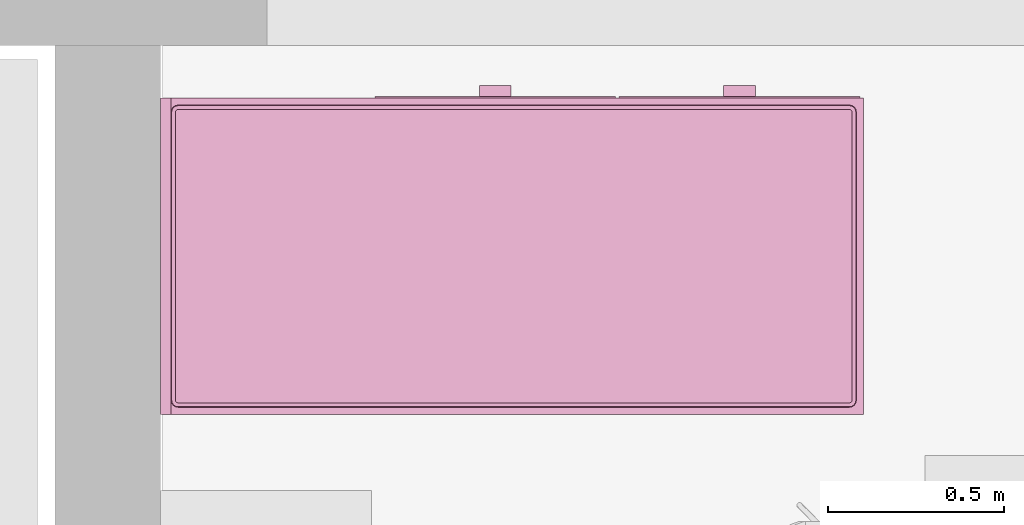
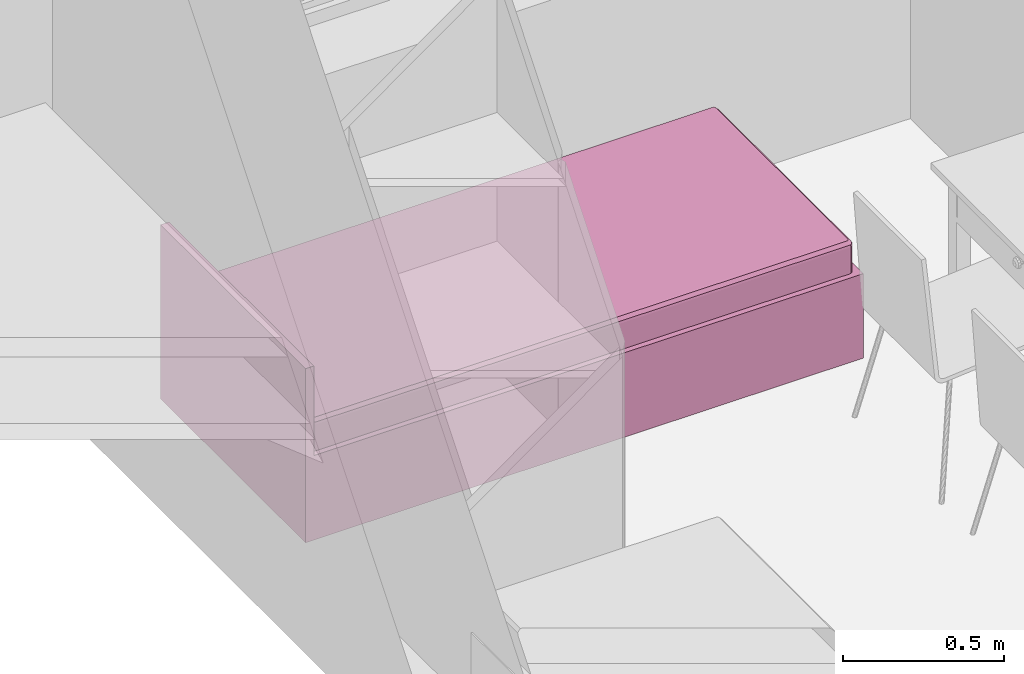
# One storey, part 129 of 165: 1 furnishing.
"""IFC2X3 building model written with IfcOpenShell, lengths in millimetres."""

from ifc_helpers import new_model, entity, si_unit, converted_unit, money_unit, direction, frame, origin_with_axes, place, context, subcontext, project, spatial, faceted_brep, source, transform, mapped, material, material_list, type_object, element, save


model = new_model("IFC2X3")

# Units and contexts
model_context = context("Model", 3, precision=1e-05, world=origin_with_axes(), true_north=direction((0.0, 1.0)))
body_context = subcontext(model_context, "Body", "Model", "MODEL_VIEW")
ifc_project = project(units=[si_unit("LENGTHUNIT", "METRE", prefix="MILLI"), si_unit("AREAUNIT", "SQUARE_METRE"), si_unit("VOLUMEUNIT", "CUBIC_METRE"), converted_unit("PLANEANGLEUNIT", "DEGREE", entity("IfcPlaneAngleMeasure", 0.0174532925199), si_unit("PLANEANGLEUNIT", "RADIAN"), dimensions=[0, 0, 0, 0, 0, 0, 0]), si_unit("SOLIDANGLEUNIT", "STERADIAN"), money_unit("USD"), converted_unit("TIMEUNIT", "Year", entity("IfcTimeMeasure", 31556926.0), si_unit("TIMEUNIT", "SECOND"), dimensions=[0, 0, 0, 0, 0, 0, 0]), si_unit("MASSUNIT", "GRAM"), si_unit("THERMODYNAMICTEMPERATUREUNIT", "DEGREE_CELSIUS"), si_unit("LUMINOUSINTENSITYUNIT", "LUMEN")], contexts=[model_context])

# Site, building, storey
site_placement = place(None, origin_with_axes())
site = spatial("IfcSite", under=ifc_project, at=site_placement, Name="Site", CompositionType="ELEMENT")
building_placement = place(site_placement, origin_with_axes())
building = spatial("IfcBuilding", under=site, at=building_placement, Name="Building", CompositionType="ELEMENT")
storey_placement = place(building_placement, frame((0.0, 0.0, 6300.0), z_axis=(0.0, 0.0, 1.0), x_axis=(1.0, 0.0, 0.0)))
storey = spatial("IfcBuildingStorey", under=building, at=storey_placement, Name="4KORRUS", CompositionType="ELEMENT", Elevation=6300.0)

# Furnishing
ifc_material = material(Name="Background")
ifc_material_list = material_list([ifc_material])
furnishing_element_type = type_object("IfcFurnishingElementType", Name="Bed 19")
shared_shape = source(origin_with_axes(), body_context, "Body", "Brep", [
    faceted_brep([(900.0, 1970.0, 0.0), (0.0, 1970.0, 0.0), (0.0, 2000.0, 0.0), (900.0, 2000.0, 0.0), (900.0, 1970.0, 660.0), (0.0, 1970.0, 660.0), (0.0, 2000.0, 660.0), (900.0, 2000.0, 660.0)], [[[0, 1, 2, 3]], [[1, 0, 4, 5]], [[2, 1, 5, 6]], [[3, 2, 6, 7]], [[0, 3, 7, 4]], [[5, 4, 7, 6]]]),
    faceted_brep([(900.0, 0.0, 0.0), (0.0, 0.0, 0.0), (0.0, 1970.0, 0.0), (900.0, 1970.0, 0.0), (900.0, 0.0, 320.0), (0.0, 0.0, 320.0), (0.0, 1970.0, 320.0), (900.0, 1970.0, 320.0)], [[[0, 1, 2, 3]], [[1, 0, 4, 5]], [[2, 1, 5, 6]], [[3, 2, 6, 7]], [[0, 3, 7, 4]], [[5, 4, 7, 6]]]),
    faceted_brep([(905.0, 10.0, 30.0), (900.0, 10.0, 30.0), (900.0, 695.0, 30.0), (905.0, 695.0, 30.0), (905.0, 10.0, 290.0), (900.0, 10.0, 290.0), (900.0, 695.0, 290.0), (905.0, 695.0, 290.0)], [[[0, 1, 2, 3]], [[1, 0, 4, 5]], [[2, 1, 5, 6]], [[3, 2, 6, 7]], [[0, 3, 7, 4]], [[5, 4, 7, 6]]]),
    faceted_brep([(935.0, 307.5, 150.0), (905.0, 307.5, 150.0), (905.0, 397.5, 150.0), (935.0, 397.5, 150.0), (935.0, 307.5, 170.0), (905.0, 307.5, 170.0), (905.0, 397.5, 170.0), (935.0, 397.5, 170.0)], [[[0, 1, 2, 3]], [[1, 0, 4, 5]], [[2, 1, 5, 6]], [[3, 2, 6, 7]], [[0, 3, 7, 4]], [[5, 4, 7, 6]]]),
    faceted_brep([(905.0, 705.0, 30.0), (900.0, 705.0, 30.0), (900.0, 1390.0, 30.0), (905.0, 1390.0, 30.0), (905.0, 705.0, 290.0), (900.0, 705.0, 290.0), (900.0, 1390.0, 290.0), (905.0, 1390.0, 290.0)], [[[0, 1, 2, 3]], [[1, 0, 4, 5]], [[2, 1, 5, 6]], [[3, 2, 6, 7]], [[0, 3, 7, 4]], [[5, 4, 7, 6]]]),
    faceted_brep([(935.0, 1002.5, 150.0), (905.0, 1002.5, 150.0), (905.0, 1092.5, 150.0), (935.0, 1092.5, 150.0), (935.0, 1002.5, 170.0), (905.0, 1002.5, 170.0), (905.0, 1092.5, 170.0), (935.0, 1092.5, 170.0)], [[[0, 1, 2, 3]], [[1, 0, 4, 5]], [[2, 1, 5, 6]], [[3, 2, 6, 7]], [[0, 3, 7, 4]], [[5, 4, 7, 6]]]),
    faceted_brep([(20.0, 40.0, 350.0), (20.0, 1950.0, 350.0), (21.522, 1957.654, 350.0), (25.858, 1964.142, 350.0), (32.346, 1968.478, 350.0), (40.0, 1970.0, 350.0), (860.0, 1970.0, 350.0), (867.654, 1968.478, 350.0), (874.142, 1964.142, 350.0), (878.478, 1957.654, 350.0), (880.0, 1950.0, 350.0), (880.0, 40.0, 350.0), (878.478, 32.346, 350.0), (874.142, 25.858, 350.0), (867.654, 21.522, 350.0), (860.0, 20.0, 350.0), (40.0, 20.0, 350.0), (32.346, 21.522, 350.0), (25.858, 25.858, 350.0), (21.522, 32.346, 350.0), (20.0, 40.0, 420.0), (20.0, 1950.0, 420.0), (21.522, 1957.654, 420.0), (25.858, 1964.142, 420.0), (32.346, 1968.478, 420.0), (40.0, 1970.0, 420.0), (860.0, 1970.0, 420.0), (867.654, 1968.478, 420.0), (874.142, 1964.142, 420.0), (878.478, 1957.654, 420.0), (880.0, 1950.0, 420.0), (880.0, 40.0, 420.0), (878.478, 32.346, 420.0), (874.142, 25.858, 420.0), (867.654, 21.522, 420.0), (860.0, 20.0, 420.0), (40.0, 20.0, 420.0), (32.346, 21.522, 420.0), (25.858, 25.858, 420.0), (21.522, 32.346, 420.0), (21.522, 40.15, 427.654), (21.522, 1949.85, 427.654), (22.956, 1957.06, 427.654), (26.955, 1963.045, 427.654), (32.94, 1967.044, 427.654), (40.15, 1968.478, 427.654), (859.85, 1968.478, 427.654), (867.06, 1967.044, 427.654), (873.045, 1963.045, 427.654), (877.044, 1957.06, 427.654), (878.478, 1949.85, 427.654), (878.478, 40.15, 427.654), (877.044, 32.94, 427.654), (873.045, 26.955, 427.654), (867.06, 22.956, 427.654), (859.85, 21.522, 427.654), (40.15, 21.522, 427.654), (32.94, 22.956, 427.654), (26.955, 26.955, 427.654), (22.956, 32.94, 427.654), (32.346, 41.216, 438.478), (32.346, 1948.784, 438.478), (33.152, 1952.836, 438.478), (34.759, 1955.241, 438.478), (37.164, 1956.848, 438.478), (41.216, 1957.654, 438.478), (858.784, 1957.654, 438.478), (862.836, 1956.848, 438.478), (865.241, 1955.241, 438.478), (866.848, 1952.836, 438.478), (867.654, 1948.784, 438.478), (867.654, 41.216, 438.478), (866.848, 37.164, 438.478), (865.241, 34.759, 438.478), (862.836, 33.152, 438.478), (858.784, 32.346, 438.478), (41.216, 32.346, 438.478), (37.164, 33.152, 438.478), (34.759, 34.759, 438.478), (33.152, 37.164, 438.478), (40.0, 41.97, 440.0), (40.0, 1948.03, 440.0), (40.327, 1949.673, 440.0), (40.0, 1950.0, 439.924), (41.97, 1950.0, 440.0), (858.03, 1950.0, 440.0), (859.673, 1949.673, 440.0), (860.0, 1950.0, 439.924), (860.0, 1948.03, 440.0), (860.0, 41.97, 440.0), (859.673, 40.327, 440.0), (860.0, 40.0, 439.924), (858.03, 40.0, 440.0), (41.97, 40.0, 440.0), (40.327, 40.327, 440.0), (40.0, 40.0, 439.924)], [[[0, 1, 2, 3, 4, 5, 6, 7, 8, 9, 10, 11, 12, 13, 14, 15, 16, 17, 18, 19]], [[1, 0, 20, 21]], [[2, 1, 21, 22]], [[3, 2, 22, 23]], [[4, 3, 23, 24]], [[5, 4, 24, 25]], [[6, 5, 25, 26]], [[7, 6, 26, 27]], [[8, 7, 27, 28]], [[9, 8, 28, 29]], [[10, 9, 29, 30]], [[11, 10, 30, 31]], [[12, 11, 31, 32]], [[13, 12, 32, 33]], [[14, 13, 33, 34]], [[15, 14, 34, 35]], [[16, 15, 35, 36]], [[17, 16, 36, 37]], [[18, 17, 37, 38]], [[19, 18, 38, 39]], [[0, 19, 39, 20]], [[21, 20, 40, 41]], [[22, 21, 41, 42]], [[23, 22, 42, 43]], [[24, 23, 43, 44]], [[25, 24, 44, 45]], [[26, 25, 45, 46]], [[27, 26, 46, 47]], [[28, 27, 47, 48]], [[29, 28, 48, 49]], [[30, 29, 49, 50]], [[31, 30, 50, 51]], [[32, 31, 51, 52]], [[33, 32, 52, 53]], [[34, 33, 53, 54]], [[35, 34, 54, 55]], [[36, 35, 55, 56]], [[37, 36, 56, 57]], [[38, 37, 57, 58]], [[39, 38, 58, 59]], [[20, 39, 59, 40]], [[41, 40, 60, 61]], [[42, 41, 61, 62]], [[43, 42, 62, 63]], [[44, 43, 63, 64]], [[45, 44, 64, 65]], [[46, 45, 65, 66]], [[47, 46, 66, 67]], [[48, 47, 67, 68]], [[49, 48, 68, 69]], [[50, 49, 69, 70]], [[51, 50, 70, 71]], [[52, 51, 71, 72]], [[53, 52, 72, 73]], [[54, 53, 73, 74]], [[55, 54, 74, 75]], [[56, 55, 75, 76]], [[57, 56, 76, 77]], [[58, 57, 77, 78]], [[59, 58, 78, 79]], [[40, 59, 79, 60]], [[61, 60, 80, 81]], [[62, 61, 81, 82, 83]], [[63, 62, 83]], [[64, 63, 83]], [[65, 64, 83, 82, 84]], [[66, 65, 84, 85]], [[67, 66, 85, 86, 87]], [[68, 67, 87]], [[69, 68, 87]], [[70, 69, 87, 86, 88]], [[71, 70, 88, 89]], [[72, 71, 89, 90, 91]], [[73, 72, 91]], [[74, 73, 91]], [[75, 74, 91, 90, 92]], [[76, 75, 92, 93]], [[77, 76, 93, 94, 95]], [[78, 77, 95]], [[79, 78, 95]], [[60, 79, 95, 94, 80]], [[81, 80, 94, 93, 92, 90, 89, 88, 86, 85, 84, 82]]]),
    faceted_brep([(20.0, 40.0, 350.0), (21.522, 32.346, 350.0), (25.858, 25.858, 350.0), (32.346, 21.522, 350.0), (40.0, 20.0, 350.0), (860.0, 20.0, 350.0), (867.654, 21.522, 350.0), (874.142, 25.858, 350.0), (878.478, 32.346, 350.0), (880.0, 40.0, 350.0), (880.0, 1950.0, 350.0), (878.478, 1957.654, 350.0), (874.142, 1964.142, 350.0), (867.654, 1968.478, 350.0), (860.0, 1970.0, 350.0), (40.0, 1970.0, 350.0), (32.346, 1968.478, 350.0), (25.858, 1964.142, 350.0), (21.522, 1957.654, 350.0), (20.0, 1950.0, 350.0), (20.0, 40.0, 320.0), (21.522, 32.346, 320.0), (25.858, 25.858, 320.0), (32.346, 21.522, 320.0), (40.0, 20.0, 320.0), (860.0, 20.0, 320.0), (867.654, 21.522, 320.0), (874.142, 25.858, 320.0), (878.478, 32.346, 320.0), (880.0, 40.0, 320.0), (880.0, 1950.0, 320.0), (878.478, 1957.654, 320.0), (874.142, 1964.142, 320.0), (867.654, 1968.478, 320.0), (860.0, 1970.0, 320.0), (40.0, 1970.0, 320.0), (32.346, 1968.478, 320.0), (25.858, 1964.142, 320.0), (21.522, 1957.654, 320.0), (20.0, 1950.0, 320.0)], [[[0, 1, 2, 3, 4, 5, 6, 7, 8, 9, 10, 11, 12, 13, 14, 15, 16, 17, 18, 19]], [[0, 20, 21, 1]], [[1, 21, 22, 2]], [[2, 22, 23, 3]], [[3, 23, 24, 4]], [[4, 24, 25, 5]], [[5, 25, 26, 6]], [[6, 26, 27, 7]], [[7, 27, 28, 8]], [[8, 28, 29, 9]], [[9, 29, 30, 10]], [[10, 30, 31, 11]], [[11, 31, 32, 12]], [[12, 32, 33, 13]], [[13, 33, 34, 14]], [[14, 34, 35, 15]], [[15, 35, 36, 16]], [[16, 36, 37, 17]], [[17, 37, 38, 18]], [[18, 38, 39, 19]], [[19, 39, 20, 0]], [[20, 39, 38, 37, 36, 35, 34, 33, 32, 31, 30, 29, 28, 27, 26, 25, 24, 23, 22, 21]]]),
])
furnishing_placement = place(storey_placement, frame((-3990.29670331, -6189.6041535, 0.0), z_axis=(0.0, 0.0, 1.0), x_axis=(0.0, 1.0, 0.0)))
element("IfcFurnishingElement", 1, at=furnishing_placement, inside=storey, type_object=furnishing_element_type, material=ifc_material_list, Name="FU - 013", context=body_context, shape_type="MappedRepresentation", body=[
    mapped(shared_shape, transform((0.0, 0.0, 0.0))),
])

save(model, "model.ifc")
